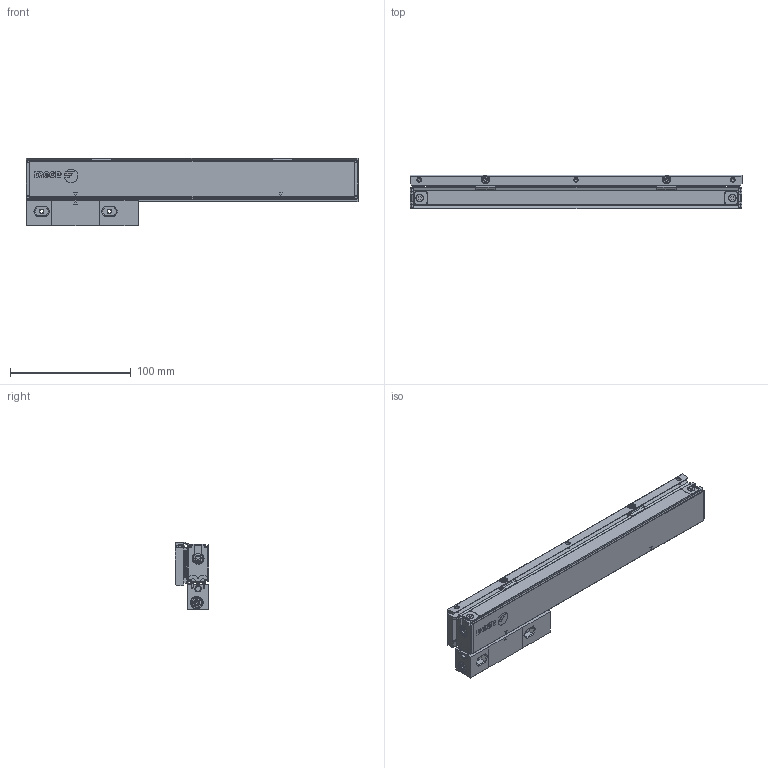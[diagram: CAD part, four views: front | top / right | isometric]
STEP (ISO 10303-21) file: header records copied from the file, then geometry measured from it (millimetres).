
FILE_DESCRIPTION(('Creo Elements/Direct Modeling STEP Export'),'2;1');
FILE_NAME('Regla SV2-170-T.stp','2018-10-15T13:32:10',(''),(''),'Creo Elements/Direct Modeling STEP processor for AP214 (Solid Model)','Creo Elements/Direct Modeling 19.0G 27-Nov-2017 (C) Parametric Technology GmbH','');
FILE_SCHEMA(('AUTOMOTIVE_DESIGN { 1 0 10303 214 1 1 1 1 }'));
Length unit declared in the file: millimetre
Products named in the file (4): REGLA_SV2-170-T; SOPORTE_SV2-T; CABEZA_ROSCADA_REGLA_SV2-T
Assembly tree (3 placements, depth 2):
  REGLA_SV2-170-T
    CABEZA_ROSCADA_REGLA_SV2-T
    SOPORTE_SV2-T
    REGLA_SV2-170-T
Bounding box: 275 x 28 x 56.2 mm (x, y, z)
Volume: 173298.9 mm3; surface area: 91939.5 mm2
Topology: 2 solids, 25 shells, 1564 faces, 4236 edges, 2746 vertices
Faces by surface type: plane 659, cylinder 618, cone 180, bspline 82, torus 18, sphere 4, extrusion 3
Entity records: 61944 total; most frequent: CARTESIAN_POINT 18300, ORIENTED_EDGE 8444, DIRECTION 7061, EDGE_CURVE 4214, VERTEX_POINT 2746, AXIS2_PLACEMENT_3D 2403, VECTOR 2255, LINE 2252
